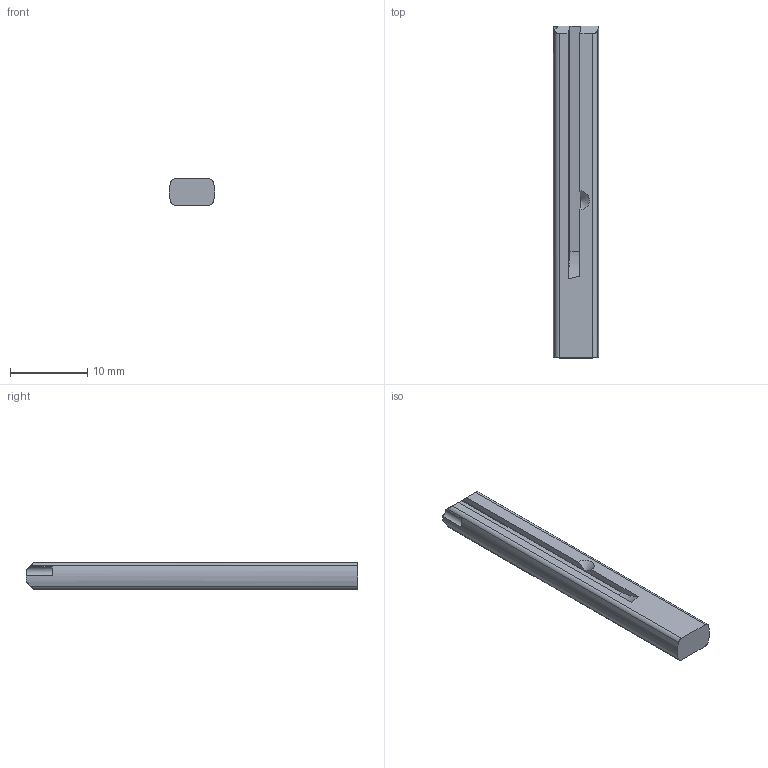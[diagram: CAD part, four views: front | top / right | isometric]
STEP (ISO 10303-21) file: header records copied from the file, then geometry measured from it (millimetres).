
FILE_DESCRIPTION(('STEP AP203'), '1');
FILE_NAME('Çàãîòîâêà êëþ÷', '', ('UNSPECIFIED'), ('UNSPECIFIED'), 'C3D Converter', 'C3D Toolkit', '');
FILE_SCHEMA(('CONFIG_CONTROL_DESIGN'));
Length unit declared in the file: millimetre
Bounding box: 5.92 x 43 x 3.44 mm (x, y, z)
Volume: 715.7 mm3; surface area: 900.8 mm2
Topology: 1 solids, 1 shells, 33 faces, 93 edges, 62 vertices
Faces by surface type: plane 17, cylinder 12, bspline 2, cone 2
Entity records: 1378 total; most frequent: CARTESIAN_POINT 536, ORIENTED_EDGE 186, DIRECTION 151, EDGE_CURVE 93, VERTEX_POINT 62, AXIS2_PLACEMENT_3D 52, LINE 47, VECTOR 47
